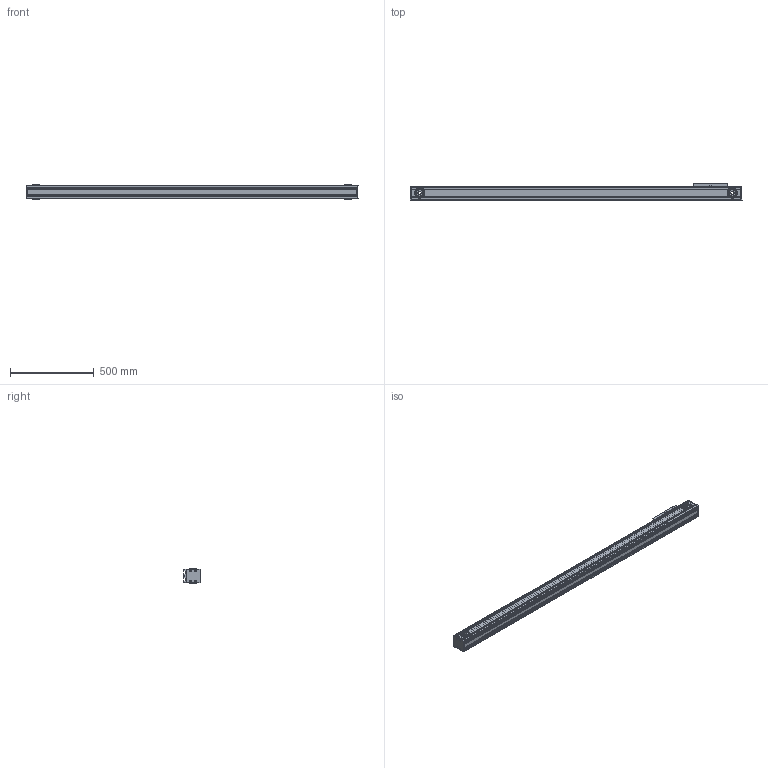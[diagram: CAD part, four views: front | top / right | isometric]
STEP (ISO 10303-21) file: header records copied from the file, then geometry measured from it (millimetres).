
FILE_DESCRIPTION (( 'STEP AP214' ), '1' );
FILE_NAME ('TKR80-1600A1-F0-R3-高速内滚轮直线模组.step', '2025-10-10T03:27:10', ( '' ), ( '' ), 'SwSTEP 2.0', 'SolidWorks 2024', '' );
FILE_SCHEMA (( 'AUTOMOTIVE_DESIGN' ));
Length unit declared in the file: millimetre
Products named in the file (3): TKR80-R3-02; TKR80-1600A1-F0-R3-高速内滚轮直线模组; TKR80-1600-R3-01
Assembly tree (2 placements, depth 2):
  TKR80-1600A1-F0-R3-高速内滚轮直线模组
    TKR80-1600-R3-01
    TKR80-R3-02
Bounding box: 1986 x 100 x 87 mm (x, y, z)
Volume: 5828122.7 mm3; surface area: 2284691.1 mm2
Topology: 1 solids, 52 shells, 2499 faces, 6775 edges, 4338 vertices
Faces by surface type: cylinder 1279, plane 770, torus 244, cone 182, sphere 24
Entity records: 120687 total; most frequent: CARTESIAN_POINT 31465, ORIENTED_EDGE 13382, DIRECTION 13179, EDGE_CURVE 6731, AXIS2_PLACEMENT_3D 5137, VERTEX_POINT 4338, VECTOR 2905, LINE 2905
